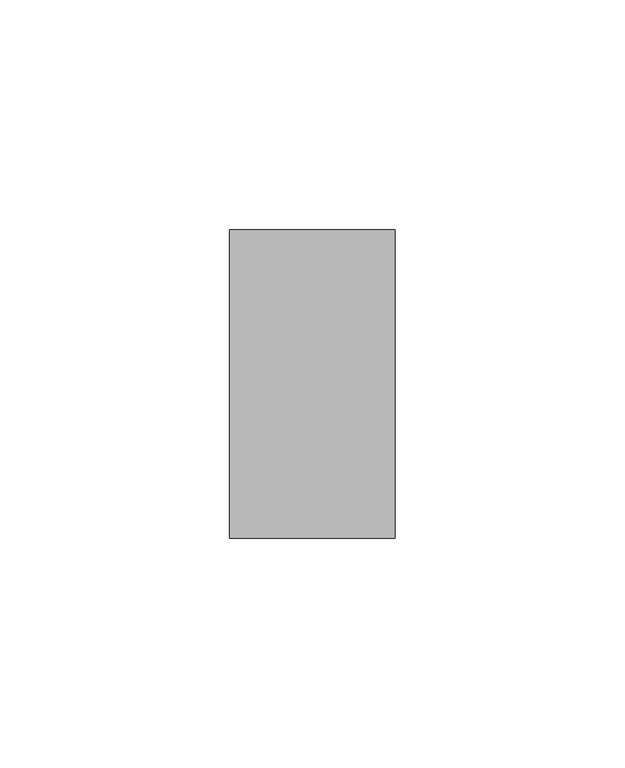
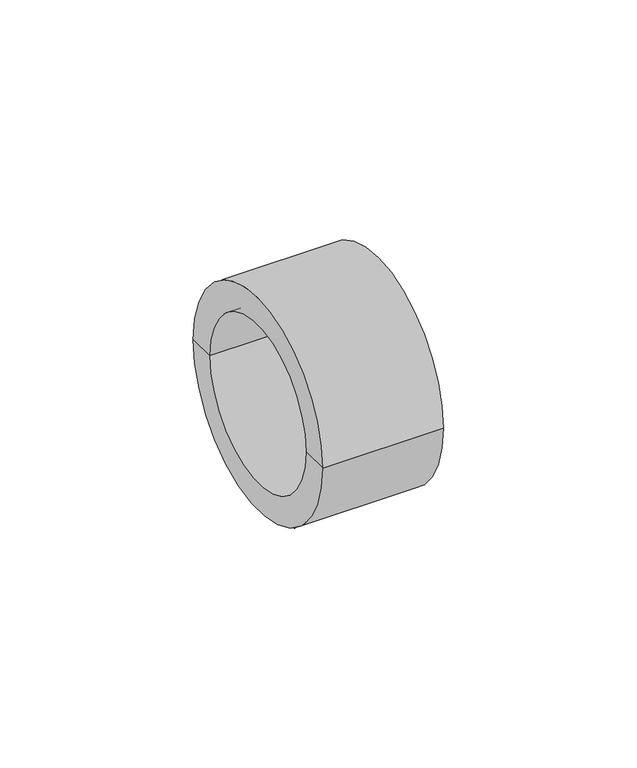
"""IFC4 building model written with IfcOpenShell, lengths in millimetres: pipe fitting geometry, EGB_VASEN_ PPR_Tapon WXR700 : Tapón WXR700."""

from ifc_helpers import new_model, si_unit, frame, origin, place, context, project, spatial, polyline, circle_curve, source, transform, mapped, element, save
from ifc_brep_helpers import plane_surface, cylinder_surface, revolved_surface, advanced_brep


def pipe_fitting_5253d56d(model_context):
    return source(origin(), model_context, "Body", "AdvancedBrep", [
        advanced_brep(
        [(0.0, -33.5, 0.0), (0.0, 33.5, 0.0), (36.0, 33.5, 0.0), (36.0, -33.5, 0.0), (0.0, -25.0, 0.0), (0.0, 25.0, 0.0), (27.5, -25.0, 0.0), (27.5, 25.0, 0.0), (27.5, 0.0, 0.0), (36.0, 0.0, 0.0)],
        [
            (0, 1, circle_curve(frame((0.0, 0.0, 0.0), z_axis=(1.0, 0.0, 0.0), x_axis=(0.0, 1.0, 0.0)), 33.5)),
            (1, 2),
            (2, 3, circle_curve(frame((36.0, 0.0, 0.0), z_axis=(-1.0, 0.0, 0.0), x_axis=(0.0, 1.0, 0.0)), 33.5)),
            (3, 0),
            (1, 0, circle_curve(frame((0.0, 0.0, 0.0), z_axis=(1.0, 0.0, 0.0), x_axis=(0.0, 1.0, 0.0)), 33.5)),
            (3, 2, circle_curve(frame((36.0, 0.0, 0.0), z_axis=(-1.0, 0.0, 0.0), x_axis=(0.0, 1.0, 0.0)), 33.5)),
            (4, 5, circle_curve(frame((0.0, 0.0, 0.0), z_axis=(1.0, 0.0, 0.0), x_axis=(0.0, 1.0, 0.0)), 25.0)),
            (5, 1),
            (0, 4),
            (5, 4, circle_curve(frame((0.0, 0.0, 0.0), z_axis=(1.0, 0.0, 0.0), x_axis=(0.0, 1.0, 0.0)), 25.0)),
            (6, 7, circle_curve(frame((27.5, 0.0, 0.0), z_axis=(1.0, 0.0, 0.0), x_axis=(0.0, 1.0, 0.0)), 25.0)),
            (7, 5),
            (4, 6),
            (7, 6, circle_curve(frame((27.5, 0.0, 0.0), z_axis=(1.0, 0.0, 0.0), x_axis=(0.0, 1.0, 0.0)), 25.0)),
            (8, 7),
            (6, 8),
            (2, 9),
            (9, 3),
        ],
        [
            cylinder_surface(frame((20.758615, 0.0, 0.0), z_axis=(-1.0, 0.0, 0.0), x_axis=(0.0, 1.0, 0.0)), 33.5),
            plane_surface(frame((0.0, 0.0, 0.0), z_axis=(-1.0, 0.0, 0.0), x_axis=(0.0, 1.0, 0.0))),
            revolved_surface(polyline([(0.0, 25.0, 0.0), (27.5, 25.0, 0.0)]), (20.758615, 0.0, 0.0), (-1.0, 0.0, 0.0)),
            plane_surface(frame((27.5, 0.0, 0.0), z_axis=(-1.0, 0.0, 0.0), x_axis=(0.0, 1.0, 0.0))),
            plane_surface(frame((36.0, 0.0, 0.0), z_axis=(1.0, 0.0, 0.0), x_axis=(0.0, 1.0, 0.0))),
        ],
        [
            (0, [[1, 2, 3, 4]]),
            (0, [[5, -4, 6, -2]]),
            (1, [[7, 8, -1, 9]]),
            (1, [[10, -9, -5, -8]]),
            (2, [[11, 12, -7, 13]]),
            (2, [[14, -13, -10, -12]]),
            (3, [[15, -11, 16]]),
            (3, [[-16, -14, -15]]),
            (4, [[-3, 17, 18]]),
            (4, [[-6, -18, -17]]),
        ],
    ),
    ])


if __name__ == "__main__":
    model = new_model("IFC4")
    model_context = context("Model", 3, world=origin())
    ifc_project = project(units=[si_unit("LENGTHUNIT", "METRE", prefix="MILLI")], contexts=[model_context])
    site = spatial("IfcSite", under=ifc_project)
    building = spatial("IfcBuilding", under=site)
    placement = place(None, origin())
    pipe_fitting_shape = pipe_fitting_5253d56d(model_context)
    element("IfcPipeFitting", 1, ObjectType="EGB_VASEN_ PPR_Tapon WXR700 : Tapón WXR700", at=placement, inside=building, context=model_context, shape_type="MappedRepresentation", body=[
        mapped(pipe_fitting_shape, transform((0.0, 0.0, 0.0), x_axis=(1.0, 0.0, 0.0), y_axis=(0.0, 1.0, 0.0), z_axis=(0.0, 0.0, 1.0))),
    ])
    save(model, "model.ifc")
